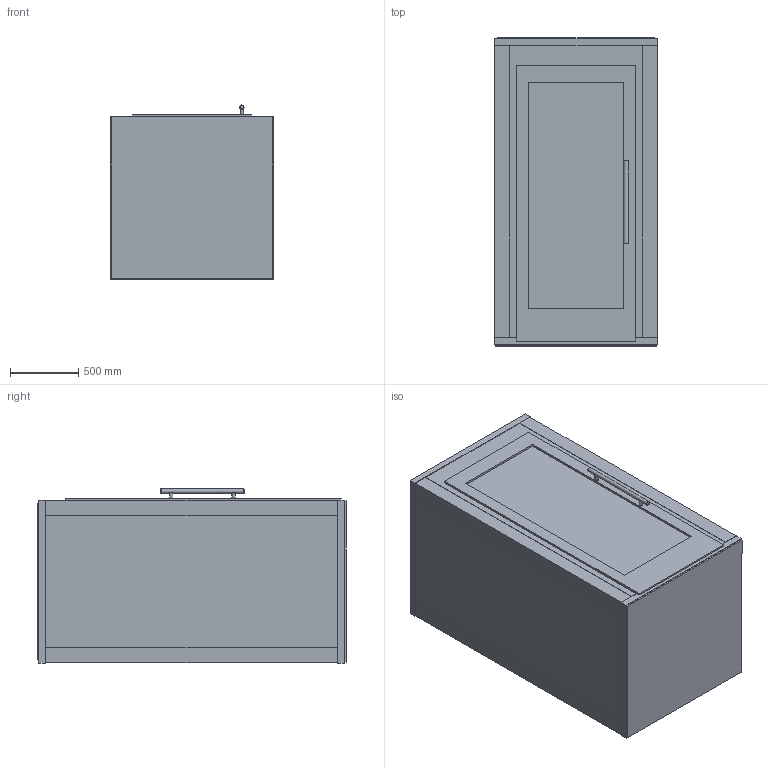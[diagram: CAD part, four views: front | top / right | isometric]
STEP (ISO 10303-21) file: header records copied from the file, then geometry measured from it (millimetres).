
FILE_DESCRIPTION(/* description */ (''),/* implementation_level */ '2;1');
FILE_NAME(/* name */ 'C:\Users\CLy\Desktop\DESKTOP\ZONEZ STEP\FZS-W.stp',/* time_stamp */ '2021-03-11T12:11:35-08:00',/* author */ ('CLy'),/* organization */ (''),/* preprocessor_version */ 'ST-DEVELOPER v18',/* originating_system */ 'Autodesk Inventor 2020',/* authorisation */ '');
FILE_SCHEMA (('AUTOMOTIVE_DESIGN { 1 0 10303 214 3 1 1 }'));
Length unit declared in the file: inch
Products named in the file (1): FZS-W (reference 1)
Bounding box: 1193.8 x 2257.56 x 1275.09 mm (x, y, z)
Volume: 937326001.4 mm3; surface area: 22797909.9 mm2
Topology: 3 solids, 3 shells, 112 faces, 291 edges, 194 vertices
Faces by surface type: plane 94, torus 8, cylinder 6, bspline 4
Full cylindrical faces by diameter (mm): 25.4 x4, 31.75 x2
Entity records: 4297 total; most frequent: CARTESIAN_POINT 1415, ORIENTED_EDGE 582, DIRECTION 533, EDGE_CURVE 291, LINE 243, VECTOR 243, VERTEX_POINT 194, AXIS2_PLACEMENT_3D 145
